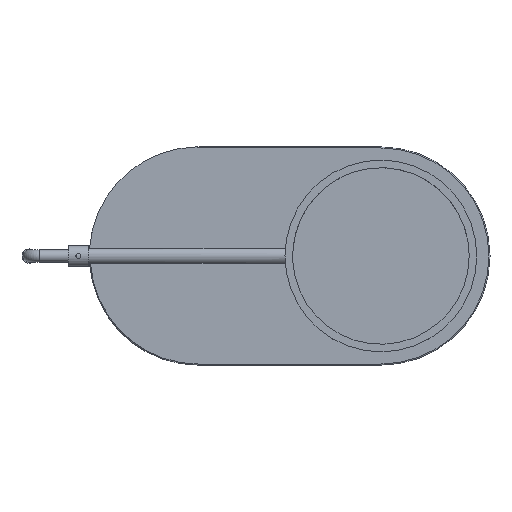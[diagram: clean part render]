
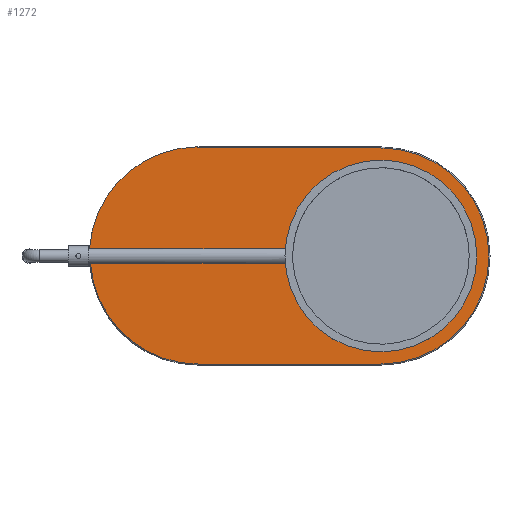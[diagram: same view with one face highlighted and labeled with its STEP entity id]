
A CAD part, top view. The second image highlights one B-rep face of the part: STEP entity #1272.
In plain terms, the highlighted planar face has unit normal (0, 0, 1).
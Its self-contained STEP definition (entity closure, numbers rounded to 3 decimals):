
#399=CARTESIAN_POINT('',(0.0,-106.5,4.0));
#400=VERTEX_POINT('',#399);
#408=CARTESIAN_POINT('',(-179.999,-106.5,4.0));
#409=VERTEX_POINT('',#408);
#410=CARTESIAN_POINT('',(0.0,-106.5,4.0));
#411=DIRECTION('',(-1.0,0.0,0.0));
#412=VECTOR('',#411,179.999);
#413=LINE('',#410,#412);
#414=EDGE_CURVE('',#400,#409,#413,.T.);
#440=CARTESIAN_POINT('',(0.,106.5,4.0));
#441=VERTEX_POINT('',#440);
#449=CARTESIAN_POINT('',(0.0,0.0,4.0));
#450=DIRECTION('',(0.0,0.0,-1.0));
#451=DIRECTION('',(1.0,0.0,0.0));
#452=AXIS2_PLACEMENT_3D('',#449,#450,#451);
#453=CIRCLE('',#452,106.5);
#454=EDGE_CURVE('',#441,#400,#453,.T.);
#466=CARTESIAN_POINT('',(-286.129,-7.215,4.0));
#467=VERTEX_POINT('',#466);
#468=CARTESIAN_POINT('',(-179.856,0.019,4.0));
#469=DIRECTION('',(0.0,0.0,-1.));
#470=DIRECTION('',(-0.683,-0.73,0.0));
#471=AXIS2_PLACEMENT_3D('',#468,#469,#470);
#472=CIRCLE('',#471,106.519);
#473=EDGE_CURVE('',#409,#467,#472,.T.);
#500=CARTESIAN_POINT('',(-164.95,106.5,4.0));
#501=VERTEX_POINT('',#500);
#529=CARTESIAN_POINT('',(-164.95,106.5,4.0));
#530=DIRECTION('',(1.0,0.0,0.0));
#531=VECTOR('',#530,164.95);
#532=LINE('',#529,#531);
#533=EDGE_CURVE('',#501,#441,#532,.T.);
#1194=CARTESIAN_POINT('',(-88.205,-7.215,4.0));
#1195=VERTEX_POINT('',#1194);
#1196=CARTESIAN_POINT('',(-88.205,-7.215,4.0));
#1197=DIRECTION('',(-1.0,0.0,0.0));
#1198=VECTOR('',#1197,197.923);
#1199=LINE('',#1196,#1198);
#1200=EDGE_CURVE('',#1195,#467,#1199,.T.);
#1202=CARTESIAN_POINT('',(-88.205,7.215,4.0));
#1203=VERTEX_POINT('',#1202);
#1221=CARTESIAN_POINT('',(-287.134,7.215,4.));
#1222=VERTEX_POINT('',#1221);
#1223=CARTESIAN_POINT('',(-287.134,7.215,4.0));
#1224=DIRECTION('',(1.0,0.0,0.0));
#1225=VECTOR('',#1224,198.928);
#1226=LINE('',#1223,#1225);
#1227=EDGE_CURVE('',#1222,#1203,#1226,.T.);
#1245=CARTESIAN_POINT('',(-89.897,-0.025,4.0));
#1246=DIRECTION('',(0.0,0.0,1.0));
#1247=DIRECTION('',(1.0,0.0,0.0));
#1248=AXIS2_PLACEMENT_3D('',#1245,#1246,#1247);
#1249=PLANE('',#1248);
#1250=CARTESIAN_POINT('',(-179.856,0.019,4.0));
#1251=DIRECTION('',(0.0,0.0,-1.));
#1252=DIRECTION('',(-0.027,-1.,0.0));
#1253=AXIS2_PLACEMENT_3D('',#1250,#1251,#1252);
#1254=CIRCLE('',#1253,107.519);
#1255=EDGE_CURVE('',#1222,#501,#1254,.T.);
#1256=ORIENTED_EDGE('',*,*,#1255,.F.);
#1257=ORIENTED_EDGE('',*,*,#1227,.T.);
#1258=CARTESIAN_POINT('',(0.0,0.0,4.0));
#1259=DIRECTION('',(0.0,0.0,1.0));
#1260=DIRECTION('',(-1.0,0.0,0.0));
#1261=AXIS2_PLACEMENT_3D('',#1258,#1259,#1260);
#1262=CIRCLE('',#1261,88.5);
#1263=EDGE_CURVE('',#1195,#1203,#1262,.T.);
#1264=ORIENTED_EDGE('',*,*,#1263,.F.);
#1265=ORIENTED_EDGE('',*,*,#1200,.T.);
#1266=ORIENTED_EDGE('',*,*,#473,.F.);
#1267=ORIENTED_EDGE('',*,*,#414,.F.);
#1268=ORIENTED_EDGE('',*,*,#454,.F.);
#1269=ORIENTED_EDGE('',*,*,#533,.F.);
#1270=EDGE_LOOP('',(#1256,#1257,#1264,#1265,#1266,#1267,#1268,#1269));
#1271=FACE_OUTER_BOUND('',#1270,.T.);
#1272=ADVANCED_FACE('',(#1271),#1249,.T.);
